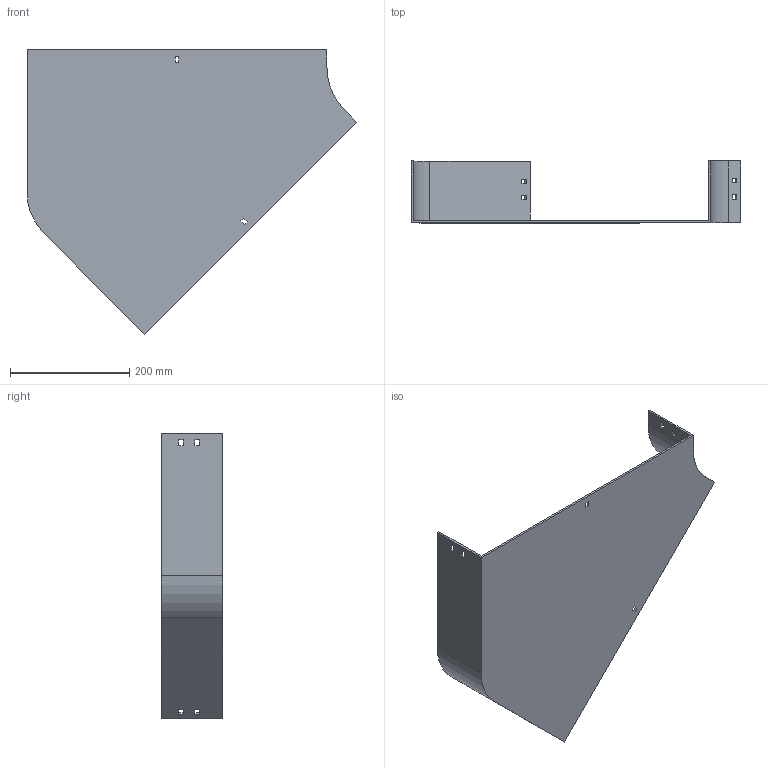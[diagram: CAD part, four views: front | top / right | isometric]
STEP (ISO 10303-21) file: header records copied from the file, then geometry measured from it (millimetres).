
FILE_DESCRIPTION (( 'STEP AP214' ), '1' );
FILE_NAME ('11F1D500.step', '2025-02-21T12:55:13', ( '' ), ( '' ), 'SwSTEP 2.0', 'SolidWorks 2023', '' );
FILE_SCHEMA (( 'AUTOMOTIVE_DESIGN' ));
Length unit declared in the file: millimetre
Products named in the file (1): 11F1D500
Bounding box: 554.5 x 104 x 478.31 mm (x, y, z)
Volume: 862192.1 mm3; surface area: 501216.3 mm2
Topology: 1 solids, 1 shells, 58 faces, 168 edges, 112 vertices
Faces by surface type: plane 54, cylinder 4
Entity records: 1943 total; most frequent: CARTESIAN_POINT 339, ORIENTED_EDGE 336, DIRECTION 294, EDGE_CURVE 168, VECTOR 160, LINE 160, VERTEX_POINT 112, EDGE_LOOP 78
